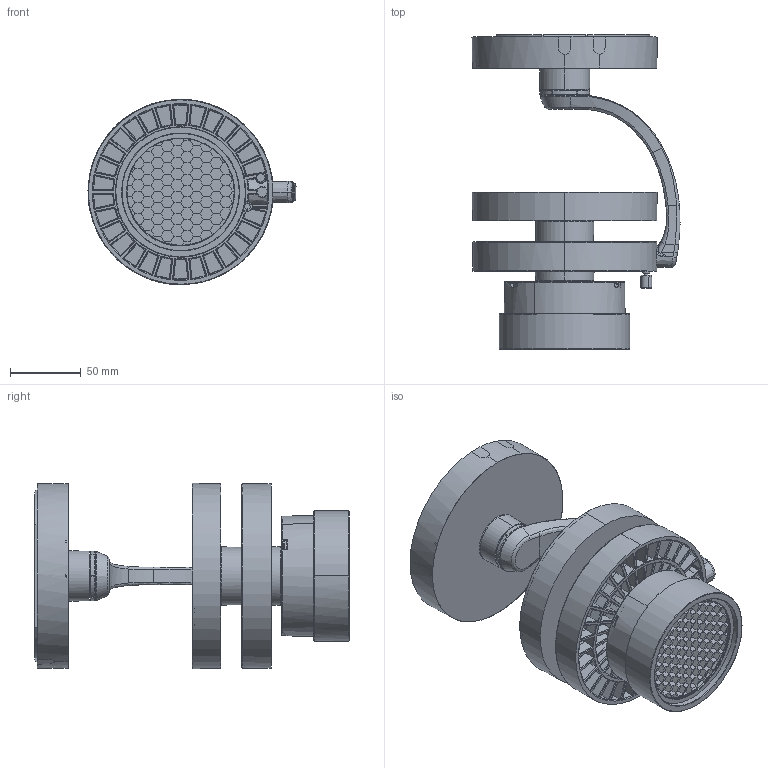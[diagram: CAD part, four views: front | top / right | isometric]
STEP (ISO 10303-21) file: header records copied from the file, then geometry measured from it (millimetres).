
FILE_DESCRIPTION(/* description */ (''),/* implementation_level */ '2;1');
FILE_NAME(/* name */ 'M057A81 - CATA CEILING - ANTI-DAZZLE LOUVRE',/* time_stamp */ '2018-03-02T16:26:15+01:00',/* author */ (''),/* organization */ (''),/* preprocessor_version */ 'ST-DEVELOPER v15',/* originating_system */ '',/* authorisation */ '');
FILE_SCHEMA (('CONFIG_CONTROL_DESIGN'));
Products named in the file (2): Document; Blocco 01 01
Assembly tree (1 placements, depth 2):
  Document
    Blocco 01 01
Bounding box: 146.68 x 221.56 x 130.7 mm (x, y, z)
Volume: 30890.8 mm3; surface area: 286774.2 mm2
Topology: 15 solids, 647 shells, 2834 faces, 8633 edges, 6197 vertices
Faces by surface type: bspline 1921, plane 913
Entity records: 155844 total; most frequent: CARTESIAN_POINT 109836, ORIENTED_EDGE 13357, EDGE_CURVE 8556, VERTEX_POINT 6223, B_SPLINE_CURVE_WITH_KNOTS 4842, EDGE_LOOP 2987, ADVANCED_FACE 2816, FACE_OUTER_BOUND 2816
